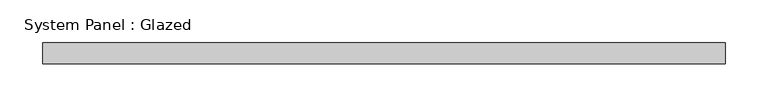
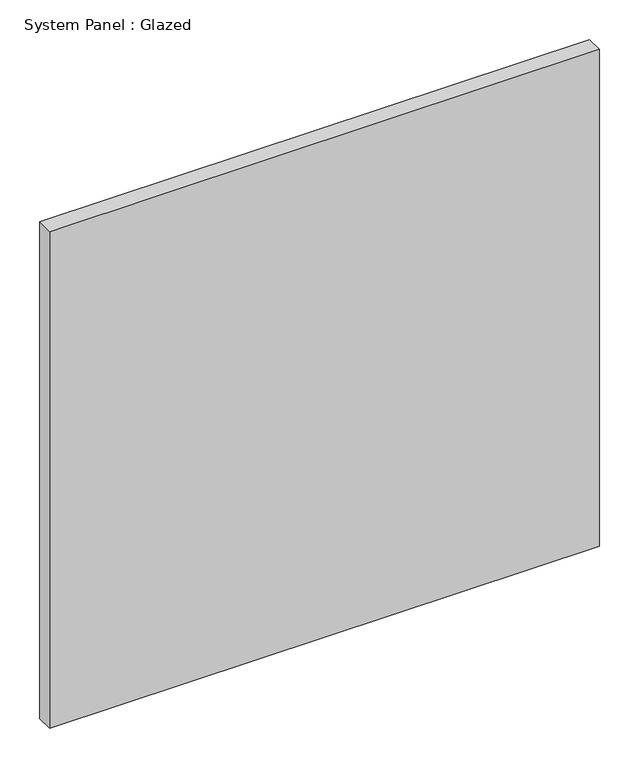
"""IFC4 building model written with IfcOpenShell, lengths in millimetres: plate geometry, System Panel : Glazed."""

from ifc_helpers import new_model, si_unit, origin, origin_with_axes, place, context, project, spatial, polyline, outline, extrude, source, transform, mapped, element, save


def system_panel_glazed_489dbc1c(model_context):
    return source(origin(), model_context, "Body", "SweptSolid", [
        extrude(outline(polyline([(400.5766294, 24.5), (-400.5766294, 24.5), (-400.5766294, 49.5), (400.5766294, 49.5), (400.5766294, 24.5)])), origin_with_axes(), (0.0, 0.0, 1.0), 765.0),
    ])


if __name__ == "__main__":
    model = new_model("IFC4")
    model_context = context("Model", 3, world=origin())
    ifc_project = project(units=[si_unit("LENGTHUNIT", "METRE", prefix="MILLI")], contexts=[model_context])
    site = spatial("IfcSite", under=ifc_project)
    building = spatial("IfcBuilding", under=site)
    placement = place(None, origin())
    system_panel_glazed_shape = system_panel_glazed_489dbc1c(model_context)
    element("IfcPlate", 1, ObjectType="System Panel : Glazed", at=placement, inside=building, context=model_context, shape_type="MappedRepresentation", body=[
        mapped(system_panel_glazed_shape, transform((0.0, 0.0, 0.0), x_axis=(1.0, 0.0, 0.0), y_axis=(0.0, 1.0, 0.0), z_axis=(0.0, 0.0, 1.0))),
    ])
    save(model, "model.ifc")
